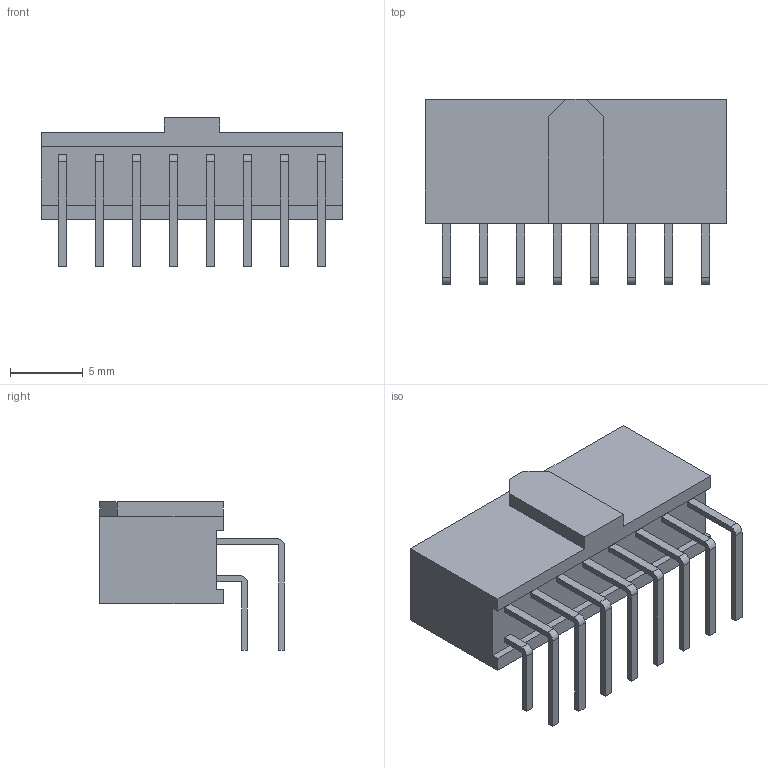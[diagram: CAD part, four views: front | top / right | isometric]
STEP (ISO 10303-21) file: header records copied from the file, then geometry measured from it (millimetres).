
FILE_DESCRIPTION (( 'STEP AP203' ), '1' );
FILE_NAME ('PM254-2-08-W-8.5-BP-XX(L12.7) (2.54双排 排母 正弯 带凸台 塑高8.5-HCTL).STEP', '2025-08-11T03:37:58', ( '' ), ( '' ), 'SwSTEP 2.0', 'SolidWorks 2025', '' );
FILE_SCHEMA (( 'CONFIG_CONTROL_DESIGN' ));
Length unit declared in the file: millimetre
Products named in the file (1): PM254-2-08-W-8.5-BP-XX(L12.7) (2.54双排 排母 正弯 带凸台 塑高8.5-HCTL)
Bounding box: 20.72 x 12.7 x 10.2 mm (x, y, z)
Volume: 1070.2 mm3; surface area: 1073.8 mm2
Topology: 1 solids, 1 shells, 240 faces, 618 edges, 412 vertices
Faces by surface type: plane 208, cylinder 32
Entity records: 7283 total; most frequent: CARTESIAN_POINT 1271, ORIENTED_EDGE 1236, DIRECTION 1164, EDGE_CURVE 618, VECTOR 554, LINE 554, VERTEX_POINT 412, AXIS2_PLACEMENT_3D 305
